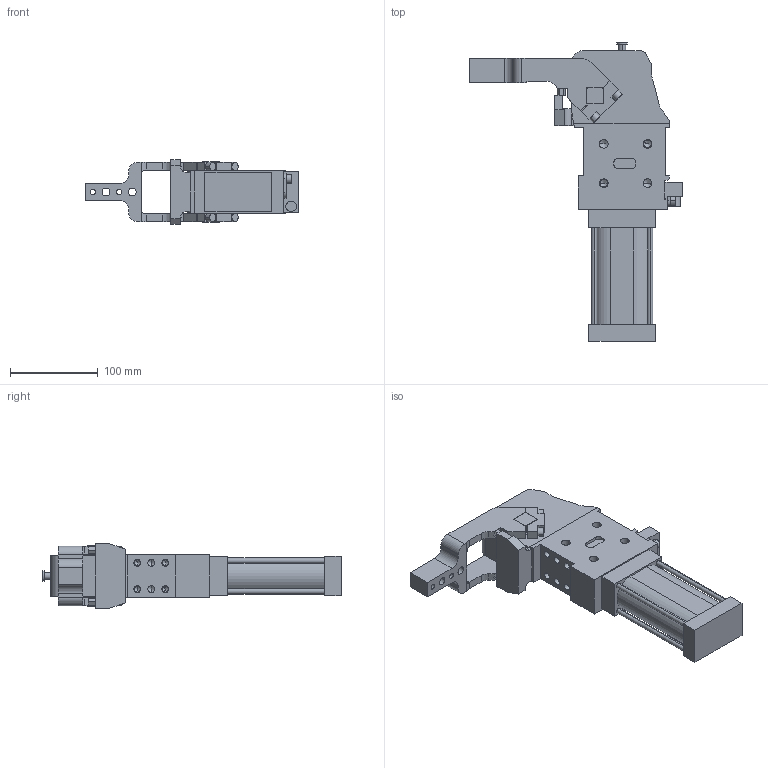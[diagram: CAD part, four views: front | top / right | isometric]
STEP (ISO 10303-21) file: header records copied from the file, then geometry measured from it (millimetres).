
FILE_DESCRIPTION (( 'STEP AP214' ), '1' );
FILE_NAME ('cpl50tv1ci1g_135.STEP', '2023-01-26T09:43:57', ( '' ), ( '' ), 'SwSTEP 2.0', 'SolidWorks 2022', '' );
FILE_SCHEMA (( 'AUTOMOTIVE_DESIGN' ));
Length unit declared in the file: millimetre
Products named in the file (4): blocchetto_VEP_0; leva_v1c_cpl50t; cpl50tv1ci1g_135; meccanica_cpl_50_tassello_esterno
Assembly tree (3 placements, depth 2):
  cpl50tv1ci1g_135
    meccanica_cpl_50_tassello_esterno
    blocchetto_VEP_0
    leva_v1c_cpl50t
Bounding box: 244.5 x 341 x 74 mm (x, y, z)
Volume: 1409823.2 mm3; surface area: 169149.3 mm2
Topology: 3 solids, 3 shells, 436 faces, 1136 edges, 709 vertices
Faces by surface type: plane 228, cylinder 158, cone 50
Entity records: 14602 total; most frequent: CARTESIAN_POINT 2323, DIRECTION 2298, ORIENTED_EDGE 2180, EDGE_CURVE 1090, AXIS2_PLACEMENT_3D 774, VECTOR 750, LINE 750, VERTEX_POINT 709
